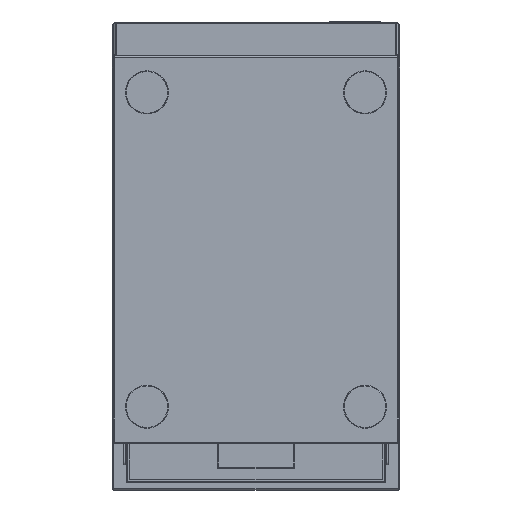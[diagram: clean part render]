
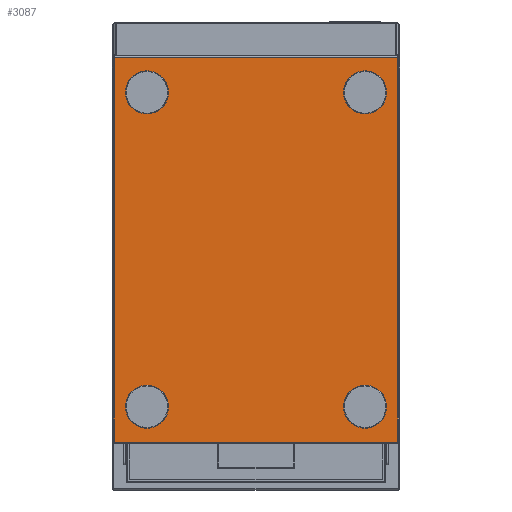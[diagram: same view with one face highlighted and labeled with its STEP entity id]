
A CAD part, front view. The second image highlights one B-rep face of the part: STEP entity #3087.
In plain terms, the highlighted planar face has unit normal (0, -1, 0).
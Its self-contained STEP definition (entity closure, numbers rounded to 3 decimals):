
#874=CARTESIAN_POINT('',(152.,-352.5,-219.));
#875=DIRECTION('',(0.,-1.,0.));
#876=DIRECTION('',(1.,0.,0.));
#877=AXIS2_PLACEMENT_3D('',#874,#875,#876);
#879=CARTESIAN_POINT('',(152.,-352.5,-219.));
#880=DIRECTION('',(0.,-1.,0.));
#881=DIRECTION('',(-1.,0.,0.));
#882=AXIS2_PLACEMENT_3D('',#879,#880,#881);
#884=CARTESIAN_POINT('',(152.,-352.5,219.));
#885=DIRECTION('',(0.,-1.,0.));
#886=DIRECTION('',(1.,0.,0.));
#887=AXIS2_PLACEMENT_3D('',#884,#885,#886);
#889=CARTESIAN_POINT('',(152.,-352.5,219.));
#890=DIRECTION('',(0.,-1.,0.));
#891=DIRECTION('',(-1.,0.,0.));
#892=AXIS2_PLACEMENT_3D('',#889,#890,#891);
#894=CARTESIAN_POINT('',(-152.,-352.5,-219.));
#895=DIRECTION('',(0.,1.,0.));
#896=DIRECTION('',(-1.,0.,0.));
#897=AXIS2_PLACEMENT_3D('',#894,#895,#896);
#899=CARTESIAN_POINT('',(-152.,-352.5,-219.));
#900=DIRECTION('',(0.,1.,0.));
#901=DIRECTION('',(1.,0.,0.));
#902=AXIS2_PLACEMENT_3D('',#899,#900,#901);
#904=CARTESIAN_POINT('',(-152.,-352.5,219.));
#905=DIRECTION('',(0.,1.,0.));
#906=DIRECTION('',(-1.,0.,0.));
#907=AXIS2_PLACEMENT_3D('',#904,#905,#906);
#909=CARTESIAN_POINT('',(-152.,-352.5,219.));
#910=DIRECTION('',(0.,1.,0.));
#911=DIRECTION('',(1.,0.,0.));
#912=AXIS2_PLACEMENT_3D('',#909,#910,#911);
#914=DIRECTION('',(0.,0.,-1.));
#915=VECTOR('',#914,536.4);
#916=CARTESIAN_POINT('',(197.2,-352.5,268.2));
#917=LINE('',#916,#915);
#918=DIRECTION('',(-1.,0.,0.));
#919=VECTOR('',#918,394.4);
#920=CARTESIAN_POINT('',(197.2,-352.5,-268.2));
#921=LINE('',#920,#919);
#922=DIRECTION('',(0.,0.,1.));
#923=VECTOR('',#922,536.4);
#924=CARTESIAN_POINT('',(-197.2,-352.5,-268.2));
#925=LINE('',#924,#923);
#926=DIRECTION('',(-1.,0.,0.));
#927=VECTOR('',#926,394.4);
#928=CARTESIAN_POINT('',(197.2,-352.5,268.2));
#929=LINE('',#928,#927);
#1452=CARTESIAN_POINT('',(182.,-352.5,-219.));
#1453=CARTESIAN_POINT('',(122.,-352.5,-219.));
#1454=VERTEX_POINT('',#1452);
#1455=VERTEX_POINT('',#1453);
#1484=CARTESIAN_POINT('',(197.2,-352.5,268.2));
#1485=CARTESIAN_POINT('',(197.2,-352.5,-268.2));
#1486=VERTEX_POINT('',#1484);
#1487=VERTEX_POINT('',#1485);
#1490=CARTESIAN_POINT('',(-197.2,-352.5,268.2));
#1491=VERTEX_POINT('',#1490);
#1494=CARTESIAN_POINT('',(-197.2,-352.5,-268.2));
#1495=VERTEX_POINT('',#1494);
#1552=CARTESIAN_POINT('',(182.,-352.5,219.));
#1553=CARTESIAN_POINT('',(122.,-352.5,219.));
#1554=VERTEX_POINT('',#1552);
#1555=VERTEX_POINT('',#1553);
#1560=CARTESIAN_POINT('',(-182.,-352.5,-219.));
#1561=VERTEX_POINT('',#1560);
#1562=CARTESIAN_POINT('',(-122.,-352.5,-219.));
#1563=VERTEX_POINT('',#1562);
#1568=CARTESIAN_POINT('',(-182.,-352.5,219.));
#1569=VERTEX_POINT('',#1568);
#1570=CARTESIAN_POINT('',(-122.,-352.5,219.));
#1571=VERTEX_POINT('',#1570);
#3050=CARTESIAN_POINT('',(-199.,-352.5,270.));
#3051=DIRECTION('',(0.,-1.,0.));
#3052=DIRECTION('',(0.,0.,-1.));
#3053=AXIS2_PLACEMENT_3D('',#3050,#3051,#3052);
#3054=PLANE('',#3053);
#3056=ORIENTED_EDGE('',*,*,#3055,.T.);
#3058=ORIENTED_EDGE('',*,*,#3057,.T.);
#3059=ORIENTED_EDGE('',*,*,#3018,.T.);
#3060=ORIENTED_EDGE('',*,*,#3041,.F.);
#3061=EDGE_LOOP('',(#3056,#3058,#3059,#3060));
#3062=FACE_OUTER_BOUND('',#3061,.F.);
#3064=ORIENTED_EDGE('',*,*,#3063,.T.);
#3066=ORIENTED_EDGE('',*,*,#3065,.T.);
#3067=EDGE_LOOP('',(#3064,#3066));
#3068=FACE_BOUND('',#3067,.F.);
#3070=ORIENTED_EDGE('',*,*,#3069,.F.);
#3072=ORIENTED_EDGE('',*,*,#3071,.F.);
#3073=EDGE_LOOP('',(#3070,#3072));
#3074=FACE_BOUND('',#3073,.F.);
#3076=ORIENTED_EDGE('',*,*,#3075,.F.);
#3078=ORIENTED_EDGE('',*,*,#3077,.F.);
#3079=EDGE_LOOP('',(#3076,#3078));
#3080=FACE_BOUND('',#3079,.F.);
#3082=ORIENTED_EDGE('',*,*,#3081,.T.);
#3084=ORIENTED_EDGE('',*,*,#3083,.T.);
#3085=EDGE_LOOP('',(#3082,#3084));
#3086=FACE_BOUND('',#3085,.F.);
#878=CIRCLE('',#877,30.);
#883=CIRCLE('',#882,30.);
#888=CIRCLE('',#887,30.);
#893=CIRCLE('',#892,30.);
#898=CIRCLE('',#897,30.);
#903=CIRCLE('',#902,30.);
#908=CIRCLE('',#907,30.);
#913=CIRCLE('',#912,30.);
#3018=EDGE_CURVE('',#1495,#1491,#925,.T.);
#3041=EDGE_CURVE('',#1486,#1491,#929,.T.);
#3055=EDGE_CURVE('',#1486,#1487,#917,.T.);
#3057=EDGE_CURVE('',#1487,#1495,#921,.T.);
#3063=EDGE_CURVE('',#1554,#1555,#888,.T.);
#3065=EDGE_CURVE('',#1555,#1554,#893,.T.);
#3069=EDGE_CURVE('',#1561,#1563,#898,.T.);
#3071=EDGE_CURVE('',#1563,#1561,#903,.T.);
#3075=EDGE_CURVE('',#1569,#1571,#908,.T.);
#3077=EDGE_CURVE('',#1571,#1569,#913,.T.);
#3081=EDGE_CURVE('',#1454,#1455,#878,.T.);
#3083=EDGE_CURVE('',#1455,#1454,#883,.T.);
#3087=ADVANCED_FACE('',(#3062,#3068,#3074,#3080,#3086),#3054,.T.);
